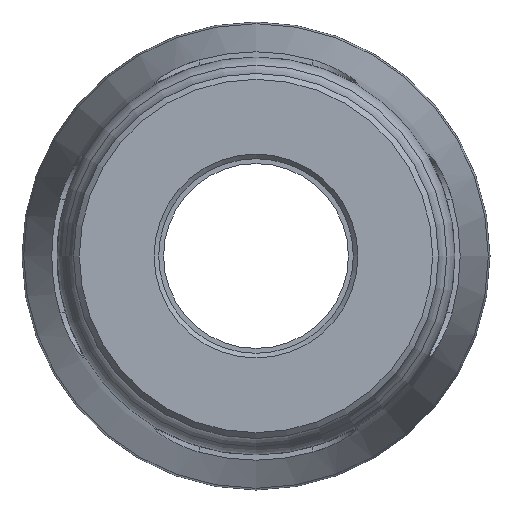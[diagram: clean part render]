
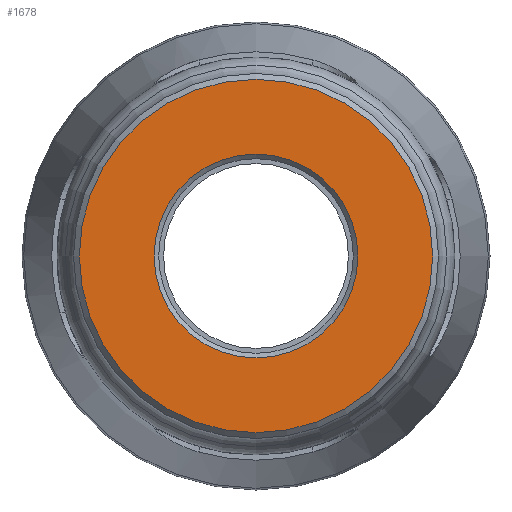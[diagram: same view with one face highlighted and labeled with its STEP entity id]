
A CAD part, left-side view. The second image highlights one B-rep face of the part: STEP entity #1678.
In plain terms, the highlighted planar face has unit normal (-1, 0, 0).
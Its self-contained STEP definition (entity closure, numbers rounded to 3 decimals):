
#23=FACE_BOUND('',#400,.T.);
#55=PLANE('',#1829);
#291=FACE_OUTER_BOUND('',#399,.T.);
#399=EDGE_LOOP('',(#1155));
#400=EDGE_LOOP('',(#1156));
#543=CIRCLE('',#1828,12.639);
#544=CIRCLE('',#1830,21.896);
#714=VERTEX_POINT('',#2896);
#715=VERTEX_POINT('',#2899);
#885=EDGE_CURVE('',#714,#714,#543,.T.);
#886=EDGE_CURVE('',#715,#715,#544,.T.);
#1155=ORIENTED_EDGE('',*,*,#886,.F.);
#1156=ORIENTED_EDGE('',*,*,#885,.F.);
#1678=ADVANCED_FACE('',(#291,#23),#55,.T.);
#1828=AXIS2_PLACEMENT_3D('',#2897,#2109,#2110);
#1829=AXIS2_PLACEMENT_3D('',#2898,#2111,#2112);
#1830=AXIS2_PLACEMENT_3D('',#2900,#2113,#2114);
#2109=DIRECTION('center_axis',(-1.,0.,0.));
#2110=DIRECTION('ref_axis',(0.,-1.,0.));
#2111=DIRECTION('center_axis',(-1.,0.,0.));
#2112=DIRECTION('ref_axis',(0.,0.,1.));
#2113=DIRECTION('center_axis',(1.,0.,0.));
#2114=DIRECTION('ref_axis',(0.,-1.,0.));
#2896=CARTESIAN_POINT('',(0.,12.639,0.));
#2897=CARTESIAN_POINT('Origin',(0.,0.,0.));
#2898=CARTESIAN_POINT('Origin',(0.,22.62,0.));
#2899=CARTESIAN_POINT('',(0.,21.896,0.));
#2900=CARTESIAN_POINT('Origin',(0.,0.,0.));
